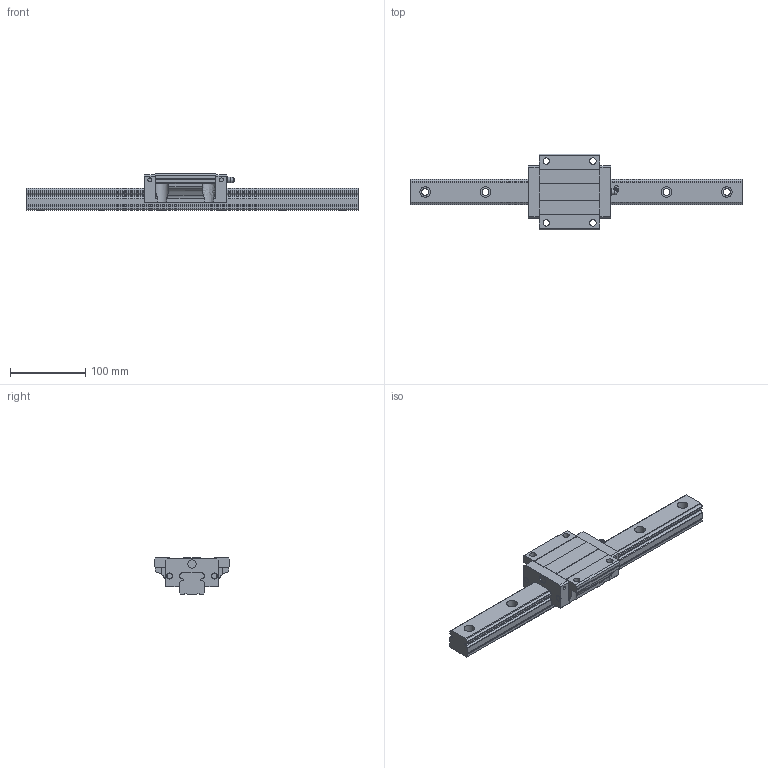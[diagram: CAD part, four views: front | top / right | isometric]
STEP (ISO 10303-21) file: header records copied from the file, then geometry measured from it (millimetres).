
FILE_DESCRIPTION((''),'2;1');
FILE_NAME('D:\製品 (図面)\カタログ用3D\リニアガイド関連\STEP形式\LGHR-F\LGHR35F.stp','2010-06-02T15:54:28',('Tsuchiya'),(''),'Autodesk Inventor 10','Autodesk Inventor 10','');
FILE_SCHEMA(('AUTOMOTIVE_DESIGN { 1 0 10303 214 1 1 1 1 }'));
Length unit declared in the file: millimetre
Products named in the file (3): LGHR35F; LGHR35F1; LGHR35F2
Assembly tree (2 placements, depth 2):
  LGHR35F
    LGHR35F1
    LGHR35F2
Bounding box: 440 x 100 x 48 mm (x, y, z)
Volume: 647119 mm3; surface area: 107718.6 mm2
Topology: 2 solids, 2 shells, 219 faces, 580 edges, 383 vertices
Faces by surface type: plane 113, cylinder 61, bspline 40, sphere 3, cone 2
Full cylindrical faces by diameter (mm): 5.2 x2, 7 x3, 7.7 x1, 8 x2, 8.376 x2, 11 x1
Entity records: 7242 total; most frequent: CARTESIAN_POINT 1891, ORIENTED_EDGE 1068, DIRECTION 1062, EDGE_CURVE 534, VERTEX_POINT 378, AXIS2_PLACEMENT_3D 364, VECTOR 334, LINE 334
